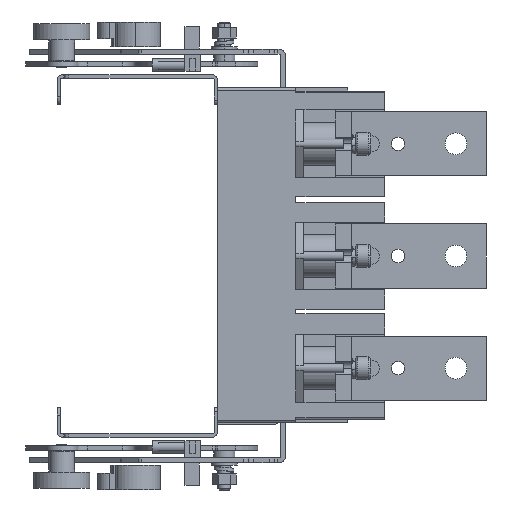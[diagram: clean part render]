
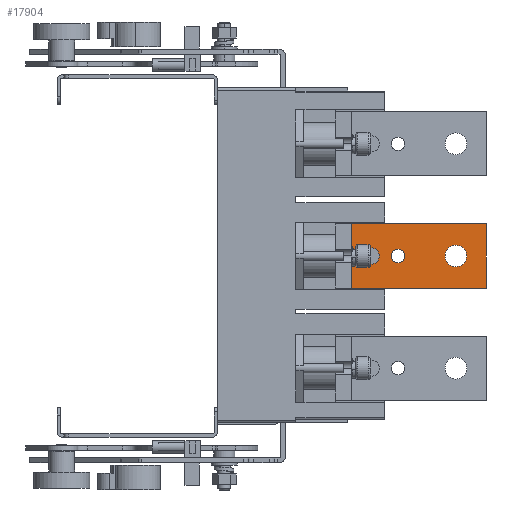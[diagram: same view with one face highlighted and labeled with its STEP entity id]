
A CAD part, left-side view. The second image highlights one B-rep face of the part: STEP entity #17904.
In plain terms, the highlighted planar face has unit normal (-1, 0, 0).
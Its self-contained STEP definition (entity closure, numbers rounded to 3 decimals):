
#616 = VERTEX_POINT ( 'NONE', #78681 ) ;
#1689 = CARTESIAN_POINT ( 'NONE',  ( 1390.873, -261.176, 89.2 ) ) ;
#3729 = CARTESIAN_POINT ( 'NONE',  ( 1390.873, -195.876, 109.2 ) ) ;
#4508 = CARTESIAN_POINT ( 'NONE',  ( 1390.873, -261.176, 82.45 ) ) ;
#5905 = VECTOR ( 'NONE', #38778, 1000. ) ;
#6580 = CARTESIAN_POINT ( 'NONE',  ( 1390.873, -208.176, 89.2 ) ) ;
#7017 = ORIENTED_EDGE ( 'NONE', *, *, #63766, .T. ) ;
#7053 = VERTEX_POINT ( 'NONE', #15405 ) ;
#7475 = CARTESIAN_POINT ( 'NONE',  ( 1390.873, -280.176, 109.2 ) ) ;
#8011 = DIRECTION ( 'NONE',  ( -1., 0., 0. ) ) ;
#9199 = CARTESIAN_POINT ( 'NONE',  ( 1390.873, -195.876, 89.2 ) ) ;
#9756 = ORIENTED_EDGE ( 'NONE', *, *, #35975, .T. ) ;
#11248 = DIRECTION ( 'NONE',  ( 1., 0., 0. ) ) ;
#12975 = DIRECTION ( 'NONE',  ( -1., 0., 0. ) ) ;
#13583 = CARTESIAN_POINT ( 'NONE',  ( 1390.873, -261.176, 95.95 ) ) ;
#13988 = EDGE_CURVE ( 'NONE', #616, #89390, #59463, .T. ) ;
#14464 = CARTESIAN_POINT ( 'NONE',  ( 1390.873, -166.876, 89.2 ) ) ;
#14920 = FACE_BOUND ( 'NONE', #18540, .T. ) ;
#15405 = CARTESIAN_POINT ( 'NONE',  ( 1390.873, -208.176, 94.35 ) ) ;
#15631 = DIRECTION ( 'NONE',  ( 0., 0., -1. ) ) ;
#16795 = CARTESIAN_POINT ( 'NONE',  ( 1390.873, -225.076, 93.35 ) ) ;
#16932 = AXIS2_PLACEMENT_3D ( 'NONE', #59130, #11248, #87651 ) ;
#17904 = ADVANCED_FACE ( 'NONE', ( #76116, #77042, #14920, #77943 ), #21395, .T. ) ;
#17940 = EDGE_LOOP ( 'NONE', ( #9756, #24273 ) ) ;
#18540 = EDGE_LOOP ( 'NONE', ( #68853, #19483 ) ) ;
#19414 = ORIENTED_EDGE ( 'NONE', *, *, #48055, .T. ) ;
#19483 = ORIENTED_EDGE ( 'NONE', *, *, #13988, .F. ) ;
#19730 = ORIENTED_EDGE ( 'NONE', *, *, #75217, .T. ) ;
#21395 = PLANE ( 'NONE',  #46748 ) ;
#24273 = ORIENTED_EDGE ( 'NONE', *, *, #90607, .T. ) ;
#24998 = CARTESIAN_POINT ( 'NONE',  ( 1390.873, -167.876, 69.2 ) ) ;
#26908 = LINE ( 'NONE', #33315, #34284 ) ;
#28237 = DIRECTION ( 'NONE',  ( -1., 0., 0. ) ) ;
#31783 = DIRECTION ( 'NONE',  ( -1., 0., 0. ) ) ;
#32415 = EDGE_CURVE ( 'NONE', #89390, #616, #55707, .T. ) ;
#33315 = CARTESIAN_POINT ( 'NONE',  ( 1390.873, -280.176, 74.2 ) ) ;
#34284 = VECTOR ( 'NONE', #69650, 1000. ) ;
#35158 = CARTESIAN_POINT ( 'NONE',  ( 1390.873, -195.876, 69.2 ) ) ;
#35965 = CARTESIAN_POINT ( 'NONE',  ( 1390.873, -225.076, 89.2 ) ) ;
#35975 = EDGE_CURVE ( 'NONE', #68326, #56215, #78142, .T. ) ;
#36781 = VECTOR ( 'NONE', #15631, 1000. ) ;
#37100 = DIRECTION ( 'NONE',  ( 1., 0., 0. ) ) ;
#37296 = CARTESIAN_POINT ( 'NONE',  ( 1390.873, -259.876, 109.2 ) ) ;
#37484 = VERTEX_POINT ( 'NONE', #7475 ) ;
#37578 = CARTESIAN_POINT ( 'NONE',  ( 1390.873, -208.176, 84.05 ) ) ;
#38466 = AXIS2_PLACEMENT_3D ( 'NONE', #1689, #37100, #72057 ) ;
#38778 = DIRECTION ( 'NONE',  ( 0., -1., 0. ) ) ;
#40053 = AXIS2_PLACEMENT_3D ( 'NONE', #6580, #28237, #42455 ) ;
#40424 = EDGE_CURVE ( 'NONE', #7053, #59394, #78721, .T. ) ;
#40461 = VERTEX_POINT ( 'NONE', #62616 ) ;
#42455 = DIRECTION ( 'NONE',  ( 0., 0., 1. ) ) ;
#42816 = DIRECTION ( 'NONE',  ( 0., 0., 1. ) ) ;
#45364 = AXIS2_PLACEMENT_3D ( 'NONE', #45591, #31783, #59841 ) ;
#45591 = CARTESIAN_POINT ( 'NONE',  ( 1390.873, -225.076, 89.2 ) ) ;
#46748 = AXIS2_PLACEMENT_3D ( 'NONE', #14464, #8011, #50775 ) ;
#48055 = EDGE_CURVE ( 'NONE', #82939, #63410, #77321, .T. ) ;
#50173 = DIRECTION ( 'NONE',  ( -1., 0., 0. ) ) ;
#50448 = ORIENTED_EDGE ( 'NONE', *, *, #76053, .F. ) ;
#50775 = DIRECTION ( 'NONE',  ( 0., 1., 0. ) ) ;
#52247 = EDGE_LOOP ( 'NONE', ( #19414, #7017, #19730, #79240 ) ) ;
#52951 = LINE ( 'NONE', #37296, #85135 ) ;
#55707 = CIRCLE ( 'NONE', #45364, 4.15 ) ;
#55732 = CARTESIAN_POINT ( 'NONE',  ( 1390.873, -208.176, 89.2 ) ) ;
#56215 = VERTEX_POINT ( 'NONE', #4508 ) ;
#59130 = CARTESIAN_POINT ( 'NONE',  ( 1390.873, -261.176, 89.2 ) ) ;
#59394 = VERTEX_POINT ( 'NONE', #37578 ) ;
#59463 = CIRCLE ( 'NONE', #90280, 4.15 ) ;
#59494 = LINE ( 'NONE', #24998, #5905 ) ;
#59817 = DIRECTION ( 'NONE',  ( 0., 1., 0. ) ) ;
#59841 = DIRECTION ( 'NONE',  ( 0., 0., 1. ) ) ;
#62616 = CARTESIAN_POINT ( 'NONE',  ( 1390.873, -280.176, 69.2 ) ) ;
#63410 = VERTEX_POINT ( 'NONE', #35158 ) ;
#63766 = EDGE_CURVE ( 'NONE', #63410, #40461, #59494, .T. ) ;
#68326 = VERTEX_POINT ( 'NONE', #13583 ) ;
#68853 = ORIENTED_EDGE ( 'NONE', *, *, #32415, .F. ) ;
#69366 = EDGE_CURVE ( 'NONE', #37484, #82939, #52951, .T. ) ;
#69650 = DIRECTION ( 'NONE',  ( 0., 0., 1. ) ) ;
#72057 = DIRECTION ( 'NONE',  ( 0., 0., 1. ) ) ;
#75217 = EDGE_CURVE ( 'NONE', #40461, #37484, #26908, .T. ) ;
#76053 = EDGE_CURVE ( 'NONE', #59394, #7053, #79708, .T. ) ;
#76116 = FACE_OUTER_BOUND ( 'NONE', #52247, .T. ) ;
#77042 = FACE_BOUND ( 'NONE', #17940, .T. ) ;
#77321 = LINE ( 'NONE', #9199, #36781 ) ;
#77943 = FACE_BOUND ( 'NONE', #78668, .T. ) ;
#78142 = CIRCLE ( 'NONE', #38466, 6.75 ) ;
#78668 = EDGE_LOOP ( 'NONE', ( #84342, #50448 ) ) ;
#78681 = CARTESIAN_POINT ( 'NONE',  ( 1390.873, -225.076, 85.05 ) ) ;
#78721 = CIRCLE ( 'NONE', #81723, 5.15 ) ;
#79240 = ORIENTED_EDGE ( 'NONE', *, *, #69366, .T. ) ;
#79708 = CIRCLE ( 'NONE', #40053, 5.15 ) ;
#81723 = AXIS2_PLACEMENT_3D ( 'NONE', #55732, #50173, #42816 ) ;
#82939 = VERTEX_POINT ( 'NONE', #3729 ) ;
#83028 = CIRCLE ( 'NONE', #16932, 6.75 ) ;
#84342 = ORIENTED_EDGE ( 'NONE', *, *, #40424, .F. ) ;
#84749 = DIRECTION ( 'NONE',  ( 0., 0., 1. ) ) ;
#85135 = VECTOR ( 'NONE', #59817, 1000. ) ;
#87651 = DIRECTION ( 'NONE',  ( 0., 0., 1. ) ) ;
#89390 = VERTEX_POINT ( 'NONE', #16795 ) ;
#90280 = AXIS2_PLACEMENT_3D ( 'NONE', #35965, #12975, #84749 ) ;
#90607 = EDGE_CURVE ( 'NONE', #56215, #68326, #83028, .T. ) ;
